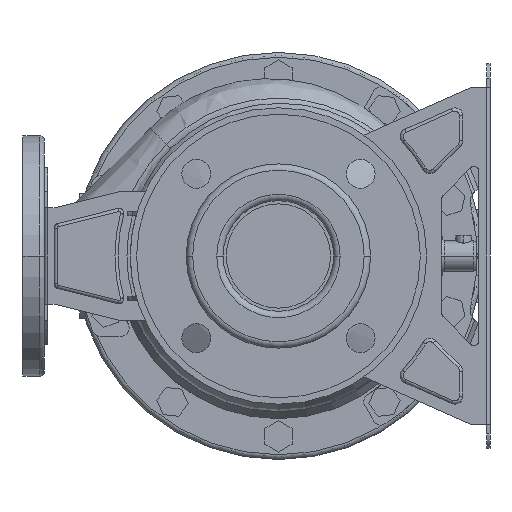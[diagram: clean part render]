
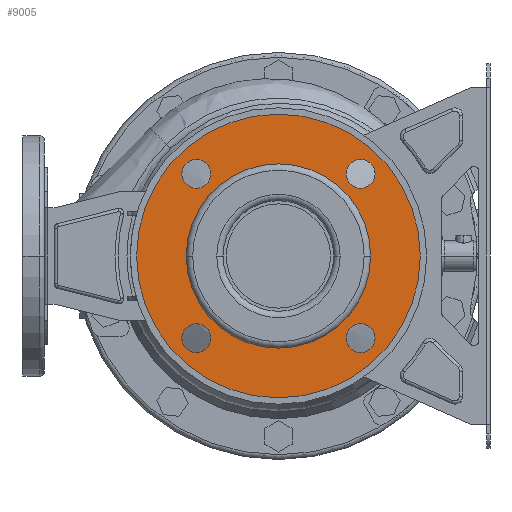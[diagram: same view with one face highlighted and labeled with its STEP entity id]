
A CAD part, left-side view. The second image highlights one B-rep face of the part: STEP entity #9005.
In plain terms, the highlighted planar face has unit normal (-1, 0, 0).
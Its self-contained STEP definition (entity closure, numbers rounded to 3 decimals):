
#8434=CARTESIAN_POINT('',(12.,0.,0.));
#8435=DIRECTION('',(-1.,0.,0.));
#8436=DIRECTION('',(0.,1.,0.));
#8437=AXIS2_PLACEMENT_3D('',#8434,#8435,#8436);
#8439=CARTESIAN_POINT('',(12.,0.,0.));
#8440=DIRECTION('',(1.,0.,0.));
#8441=DIRECTION('',(0.,1.,0.));
#8442=AXIS2_PLACEMENT_3D('',#8439,#8440,#8441);
#8444=CARTESIAN_POINT('',(12.,-51.265,51.265));
#8445=DIRECTION('',(1.,0.,0.));
#8446=DIRECTION('',(0.,1.,0.));
#8447=AXIS2_PLACEMENT_3D('',#8444,#8445,#8446);
#8449=CARTESIAN_POINT('',(12.,-51.265,51.265));
#8450=DIRECTION('',(1.,0.,0.));
#8451=DIRECTION('',(0.,-1.,0.));
#8452=AXIS2_PLACEMENT_3D('',#8449,#8450,#8451);
#8454=CARTESIAN_POINT('',(12.,-51.265,-51.265));
#8455=DIRECTION('',(1.,0.,0.));
#8456=DIRECTION('',(0.,0.,1.));
#8457=AXIS2_PLACEMENT_3D('',#8454,#8455,#8456);
#8459=CARTESIAN_POINT('',(12.,-51.265,-51.265));
#8460=DIRECTION('',(1.,0.,0.));
#8461=DIRECTION('',(0.,0.,-1.));
#8462=AXIS2_PLACEMENT_3D('',#8459,#8460,#8461);
#8464=CARTESIAN_POINT('',(12.,51.265,-51.265));
#8465=DIRECTION('',(1.,0.,0.));
#8466=DIRECTION('',(0.,-1.,0.));
#8467=AXIS2_PLACEMENT_3D('',#8464,#8465,#8466);
#8469=CARTESIAN_POINT('',(12.,51.265,-51.265));
#8470=DIRECTION('',(1.,0.,0.));
#8471=DIRECTION('',(0.,1.,0.));
#8472=AXIS2_PLACEMENT_3D('',#8469,#8470,#8471);
#8474=CARTESIAN_POINT('',(12.,51.265,51.265));
#8475=DIRECTION('',(1.,0.,0.));
#8476=DIRECTION('',(0.,0.,-1.));
#8477=AXIS2_PLACEMENT_3D('',#8474,#8475,#8476);
#8479=CARTESIAN_POINT('',(12.,51.265,51.265));
#8480=DIRECTION('',(1.,0.,0.));
#8481=DIRECTION('',(0.,0.,1.));
#8482=AXIS2_PLACEMENT_3D('',#8479,#8480,#8481);
#8484=CARTESIAN_POINT('',(12.,0.,0.));
#8485=DIRECTION('',(1.,0.,0.));
#8486=DIRECTION('',(0.,1.,0.));
#8487=AXIS2_PLACEMENT_3D('',#8484,#8485,#8486);
#8497=CARTESIAN_POINT('',(12.,0.,0.));
#8498=DIRECTION('',(-1.,0.,0.));
#8499=DIRECTION('',(0.,1.,0.));
#8500=AXIS2_PLACEMENT_3D('',#8497,#8498,#8499);
#8605=CARTESIAN_POINT('',(12.,88.5,0.));
#8607=VERTEX_POINT('',#8605);
#8608=CARTESIAN_POINT('',(12.,57.5,0.));
#8610=VERTEX_POINT('',#8608);
#8637=CARTESIAN_POINT('',(12.,-88.5,0.));
#8639=VERTEX_POINT('',#8637);
#8640=CARTESIAN_POINT('',(12.,-57.5,0.));
#8642=VERTEX_POINT('',#8640);
#8652=CARTESIAN_POINT('',(12.,-42.265,51.265));
#8653=CARTESIAN_POINT('',(12.,-60.265,51.265));
#8654=VERTEX_POINT('',#8652);
#8655=VERTEX_POINT('',#8653);
#8660=CARTESIAN_POINT('',(12.,-51.265,-42.265));
#8661=CARTESIAN_POINT('',(12.,-51.265,-60.265));
#8662=VERTEX_POINT('',#8660);
#8663=VERTEX_POINT('',#8661);
#8668=CARTESIAN_POINT('',(12.,42.265,-51.265));
#8669=CARTESIAN_POINT('',(12.,60.265,-51.265));
#8670=VERTEX_POINT('',#8668);
#8671=VERTEX_POINT('',#8669);
#8676=CARTESIAN_POINT('',(12.,51.265,42.265));
#8677=CARTESIAN_POINT('',(12.,51.265,60.265));
#8678=VERTEX_POINT('',#8676);
#8679=VERTEX_POINT('',#8677);
#8966=CARTESIAN_POINT('',(12.,0.,0.));
#8967=DIRECTION('',(1.,0.,0.));
#8968=DIRECTION('',(0.,-1.,0.));
#8969=AXIS2_PLACEMENT_3D('',#8966,#8967,#8968);
#8970=PLANE('',#8969);
#8971=ORIENTED_EDGE('',*,*,#8959,.F.);
#8972=ORIENTED_EDGE('',*,*,#8948,.T.);
#8973=EDGE_LOOP('',(#8971,#8972));
#8974=FACE_OUTER_BOUND('',#8973,.F.);
#8976=ORIENTED_EDGE('',*,*,#8975,.F.);
#8978=ORIENTED_EDGE('',*,*,#8977,.T.);
#8979=EDGE_LOOP('',(#8976,#8978));
#8980=FACE_BOUND('',#8979,.F.);
#8982=ORIENTED_EDGE('',*,*,#8981,.F.);
#8984=ORIENTED_EDGE('',*,*,#8983,.F.);
#8985=EDGE_LOOP('',(#8982,#8984));
#8986=FACE_BOUND('',#8985,.F.);
#8988=ORIENTED_EDGE('',*,*,#8987,.F.);
#8990=ORIENTED_EDGE('',*,*,#8989,.F.);
#8991=EDGE_LOOP('',(#8988,#8990));
#8992=FACE_BOUND('',#8991,.F.);
#8994=ORIENTED_EDGE('',*,*,#8993,.F.);
#8996=ORIENTED_EDGE('',*,*,#8995,.F.);
#8997=EDGE_LOOP('',(#8994,#8996));
#8998=FACE_BOUND('',#8997,.F.);
#9000=ORIENTED_EDGE('',*,*,#8999,.F.);
#9002=ORIENTED_EDGE('',*,*,#9001,.F.);
#9003=EDGE_LOOP('',(#9000,#9002));
#9004=FACE_BOUND('',#9003,.F.);
#9005=ADVANCED_FACE('',(#8974,#8980,#8986,#8992,#8998,#9004),#8970,.F.);
#8438=CIRCLE('',#8437,88.5);
#8443=CIRCLE('',#8442,88.5);
#8448=CIRCLE('',#8447,9.);
#8453=CIRCLE('',#8452,9.);
#8458=CIRCLE('',#8457,9.);
#8463=CIRCLE('',#8462,9.);
#8468=CIRCLE('',#8467,9.);
#8473=CIRCLE('',#8472,9.);
#8478=CIRCLE('',#8477,9.);
#8483=CIRCLE('',#8482,9.);
#8488=CIRCLE('',#8487,57.5);
#8501=CIRCLE('',#8500,57.5);
#8948=EDGE_CURVE('',#8607,#8639,#8443,.T.);
#8959=EDGE_CURVE('',#8607,#8639,#8438,.T.);
#8975=EDGE_CURVE('',#8610,#8642,#8488,.T.);
#8977=EDGE_CURVE('',#8610,#8642,#8501,.T.);
#8981=EDGE_CURVE('',#8654,#8655,#8448,.T.);
#8983=EDGE_CURVE('',#8655,#8654,#8453,.T.);
#8987=EDGE_CURVE('',#8662,#8663,#8458,.T.);
#8989=EDGE_CURVE('',#8663,#8662,#8463,.T.);
#8993=EDGE_CURVE('',#8670,#8671,#8468,.T.);
#8995=EDGE_CURVE('',#8671,#8670,#8473,.T.);
#8999=EDGE_CURVE('',#8678,#8679,#8478,.T.);
#9001=EDGE_CURVE('',#8679,#8678,#8483,.T.);
